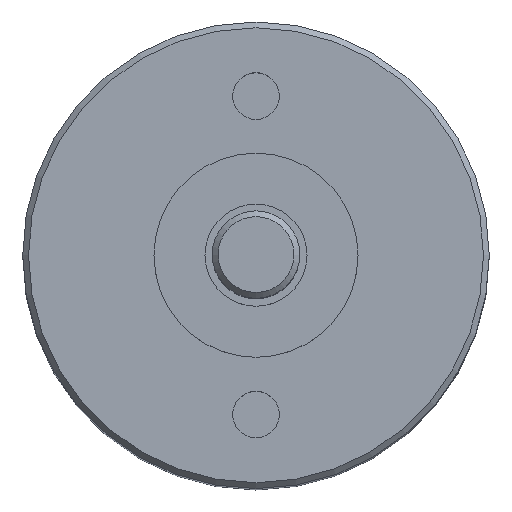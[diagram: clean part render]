
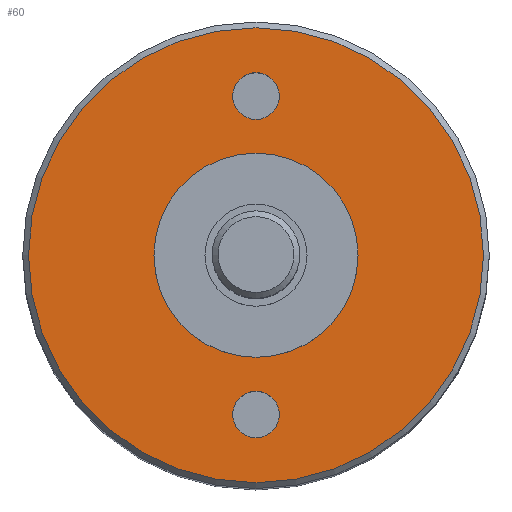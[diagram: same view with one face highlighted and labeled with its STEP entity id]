
A CAD part, top view. The second image highlights one B-rep face of the part: STEP entity #60.
In plain terms, the highlighted planar face has unit normal (0, 0, 1).
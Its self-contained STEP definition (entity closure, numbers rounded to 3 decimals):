
#60=ADVANCED_FACE('',(#107,#108,#109,#110),#84,.T.);
#84=PLANE('',#446);
#107=FACE_BOUND('',#150,.T.);
#108=FACE_BOUND('',#151,.T.);
#109=FACE_BOUND('',#152,.T.);
#110=FACE_BOUND('',#153,.T.);
#150=EDGE_LOOP('',(#203));
#151=EDGE_LOOP('',(#204));
#152=EDGE_LOOP('',(#205));
#153=EDGE_LOOP('',(#206));
#203=ORIENTED_EDGE('',*,*,#286,.T.);
#204=ORIENTED_EDGE('',*,*,#287,.T.);
#205=ORIENTED_EDGE('',*,*,#288,.T.);
#206=ORIENTED_EDGE('',*,*,#285,.T.);
#258=VERTEX_POINT('',#652);
#259=VERTEX_POINT('',#655);
#260=VERTEX_POINT('',#657);
#261=VERTEX_POINT('',#659);
#285=EDGE_CURVE('',#258,#258,#319,.T.);
#286=EDGE_CURVE('',#259,#259,#320,.T.);
#287=EDGE_CURVE('',#260,#260,#321,.T.);
#288=EDGE_CURVE('',#261,#261,#322,.T.);
#319=CIRCLE('',#441,3.5);
#320=CIRCLE('',#443,0.8);
#321=CIRCLE('',#444,0.8);
#322=CIRCLE('',#445,7.8);
#441=AXIS2_PLACEMENT_3D('',#651,#532,#533);
#443=AXIS2_PLACEMENT_3D('',#654,#536,#537);
#444=AXIS2_PLACEMENT_3D('',#656,#538,#539);
#445=AXIS2_PLACEMENT_3D('',#658,#540,#541);
#446=AXIS2_PLACEMENT_3D('',#660,#542,#543);
#532=DIRECTION('',(0.,0.,-1.));
#533=DIRECTION('',(1.,0.,0.));
#536=DIRECTION('',(0.,0.,-1.));
#537=DIRECTION('',(1.,0.,0.));
#538=DIRECTION('',(0.,0.,-1.));
#539=DIRECTION('',(-1.,0.,0.));
#540=DIRECTION('',(0.,0.,1.));
#541=DIRECTION('',(1.,0.,0.));
#542=DIRECTION('',(0.,0.,1.));
#543=DIRECTION('',(1.,0.,0.));
#651=CARTESIAN_POINT('',(0.,0.,0.));
#652=CARTESIAN_POINT('',(3.5,0.,0.));
#654=CARTESIAN_POINT('',(0.,-5.46,0.));
#655=CARTESIAN_POINT('',(0.8,-5.46,0.));
#656=CARTESIAN_POINT('',(0.,5.46,0.));
#657=CARTESIAN_POINT('',(-0.8,5.46,0.));
#658=CARTESIAN_POINT('',(0.,0.,0.));
#659=CARTESIAN_POINT('',(7.8,0.,0.));
#660=CARTESIAN_POINT('',(0.,0.,0.));
